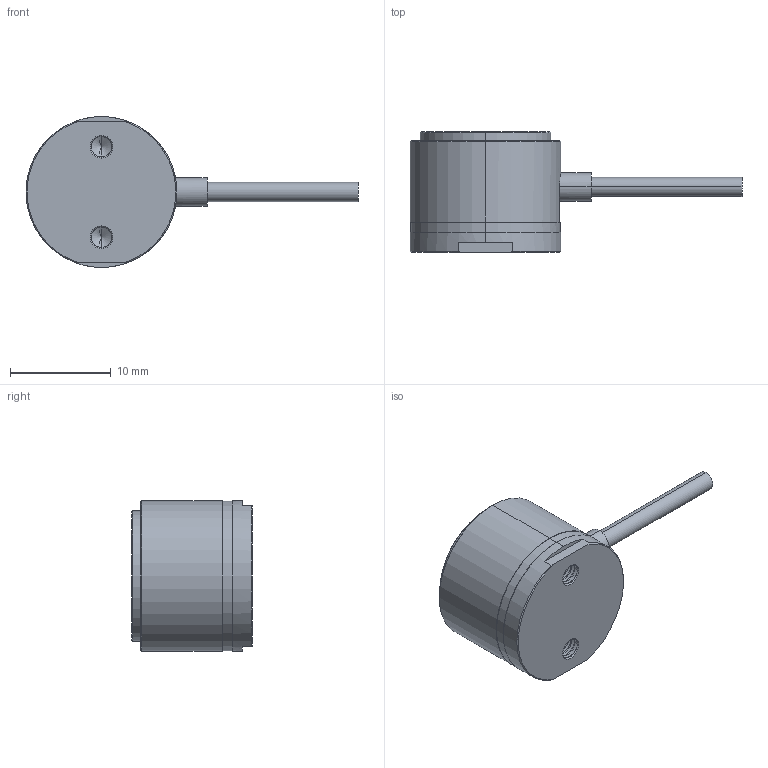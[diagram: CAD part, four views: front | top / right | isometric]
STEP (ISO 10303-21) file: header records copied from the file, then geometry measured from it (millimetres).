
FILE_DESCRIPTION (( 'STEP AP203' ), '1' );
FILE_NAME ('FCFK-500N.STEP', '2024-07-16T08:18:29', ( '' ), ( '' ), 'SwSTEP 2.0', 'SolidWorks 2019', '' );
FILE_SCHEMA (( 'CONFIG_CONTROL_DESIGN' ));
Length unit declared in the file: millimetre
Products named in the file (1): FCFK-500N
Bounding box: 33 x 12 x 15 mm (x, y, z)
Volume: 1920.1 mm3; surface area: 1829.8 mm2
Topology: 1 solids, 1 shells, 124 faces, 336 edges, 210 vertices
Faces by surface type: cylinder 62, plane 23, cone 22, bspline 17
Entity records: 10452 total; most frequent: CARTESIAN_POINT 7649, ORIENTED_EDGE 656, DIRECTION 468, EDGE_CURVE 328, VERTEX_POINT 210, AXIS2_PLACEMENT_3D 184, EDGE_LOOP 134, FACE_OUTER_BOUND 124
